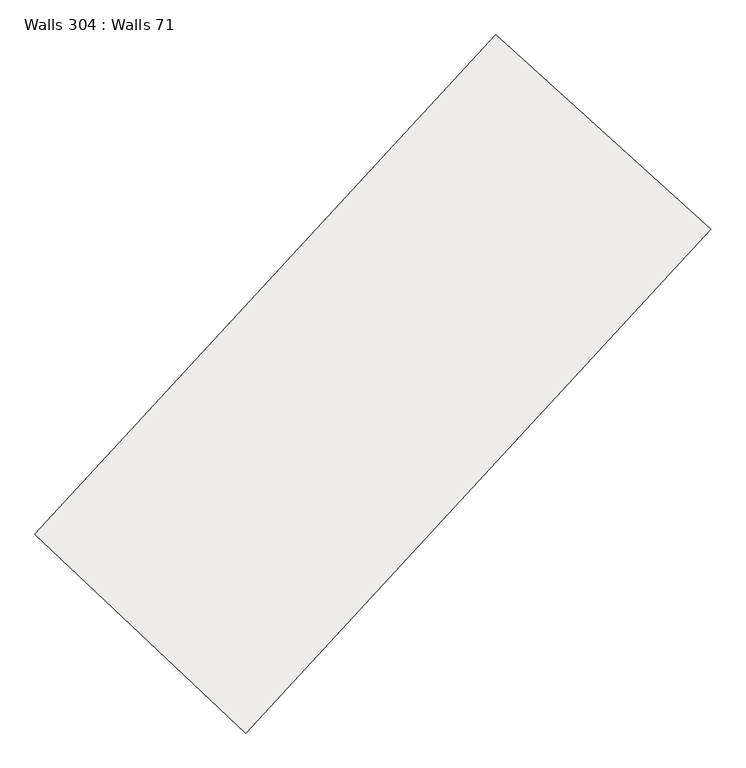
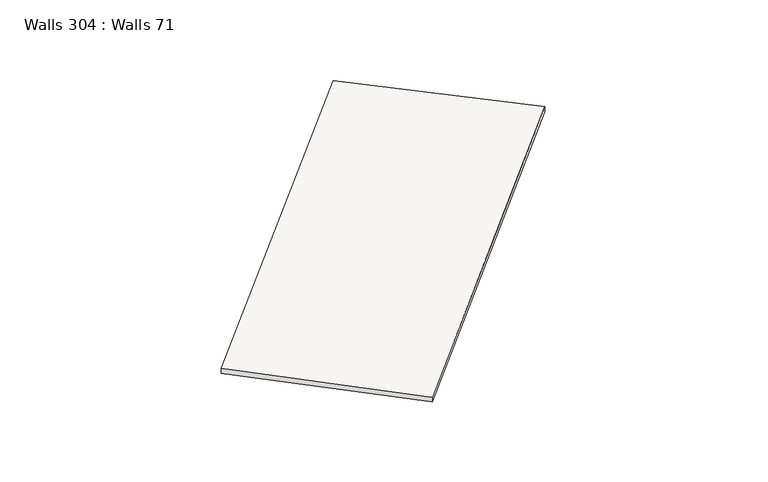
"""IFC4 building model written with IfcOpenShell, lengths in millimetres: slab geometry, Walls 304 : Walls 71."""

from ifc_helpers import new_model, si_unit, frame, origin, place, context, project, spatial, source, transform, mapped, element, save
from ifc_brep_helpers import plane_surface, spline_curve, spline_surface, advanced_brep


def walls_304_walls_71_2ab78971(model_context):
    return source(origin(), model_context, "Body", "AdvancedBrep", [
        advanced_brep(
        [(45885.382253, -106817.8786355, 638700.0), (45885.382253, -106817.8786355, 638800.0), (48631.0018566, -109298.1151146, 638800.0), (48631.0018566, -109298.1151146, 638700.0), (39997.0080506, -113195.4845392, 638620.0), (42688.0373647, -115734.8469062, 638620.0), (42688.0373647, -115734.8469062, 638720.0), (39997.0080506, -113195.4845392, 638720.0)],
        [
            (0, 1),
            (1, 2),
            (2, 3),
            (3, 0),
            (4, 5),
            (5, 6),
            (6, 7),
            (7, 4),
            (4, 0, spline_curve(3, [(39997.0080506, -113195.4845392, 638620.0), (41982.840895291, -111091.045067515, 638646.666667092), (43945.787051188, -108965.00882, 638673.333332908), (45885.382253, -106817.8786355, 638700.0)], [4, 4], [0.0, 28.612158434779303])),
            (3, 5, spline_curve(3, [(48631.0018566, -109298.1151146, 638700.0), (46673.424940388, -111465.151041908, 638673.333332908), (44692.280586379, -113610.897472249, 638646.666667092), (42688.0373647, -115734.8469062, 638620.0)], [4, 4], [0.0, 28.612158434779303])),
            (6, 2, spline_curve(3, [(42688.0373647, -115734.8469062, 638720.0), (44692.280586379, -113610.897472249, 638746.666667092), (46673.424940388, -111465.151041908, 638773.333332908), (48631.0018566, -109298.1151146, 638800.0)], [4, 4], [0.0, 28.612158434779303])),
            (1, 7, spline_curve(3, [(45885.382253, -106817.8786355, 638800.0), (43945.787051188, -108965.00882, 638773.333332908), (41982.840895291, -111091.045067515, 638746.666667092), (39997.0080506, -113195.4845392, 638720.0)], [4, 4], [0.0, 28.612158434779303])),
        ],
        [
            plane_surface(frame((47258.1920548, -108057.996875, 638750.0), z_axis=(0.6703341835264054, 0.7420593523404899, 0.0), x_axis=(0.0, 0.0, 1.0))),
            plane_surface(frame((41342.5227076, -114465.1657227, 638670.0), z_axis=(-0.6863141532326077, -0.7273052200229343, 0.0), x_axis=(0.0, 0.0, 1.0))),
            spline_surface(3, 3, [[(42688.0373647, -115734.8469062, 638620.0), (44692.280586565, -113610.897471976, 638646.666666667), (46673.424940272, -111465.151041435, 638673.333333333), (48631.0018566, -109298.1151146, 638700.0)], [(41791.027593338, -114888.39278388, 638620.0), (43789.13402281, -112770.946670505, 638646.666666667), (45764.21231055, -110631.770301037, 638673.333333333), (47715.795322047, -108471.369621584, 638700.0)], [(40894.017821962, -114041.93866152, 638620.0), (42885.98745904, -111930.995868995, 638646.666666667), (44854.999680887, -109798.389560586, 638673.333333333), (46800.588787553, -107644.624128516, 638700.0)], [(39997.0080506, -113195.4845392, 638620.0), (41982.840895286, -111091.045067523, 638646.666666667), (43945.787051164, -108965.008820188, 638673.333333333), (45885.382253, -106817.8786355, 638700.0)]], [4, 4], [4, 4], [0.0, 12.139107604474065], [0.0, 28.612158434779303]),
            spline_surface(3, 3, [[(39997.0080506, -113195.4845392, 638720.0), (41982.840895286, -111091.045067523, 638746.666666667), (43945.787051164, -108965.008820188, 638773.333333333), (45885.382253, -106817.8786355, 638800.0)], [(40894.017821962, -114041.93866152, 638720.0), (42885.98745904, -111930.995868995, 638746.666666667), (44854.999680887, -109798.389560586, 638773.333333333), (46800.588787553, -107644.624128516, 638800.0)], [(41791.027593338, -114888.39278388, 638720.0), (43789.13402281, -112770.946670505, 638746.666666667), (45764.212310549, -110631.770301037, 638773.333333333), (47715.795322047, -108471.369621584, 638800.0)], [(42688.0373647, -115734.8469062, 638720.0), (44692.280586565, -113610.897471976, 638746.666666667), (46673.424940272, -111465.151041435, 638773.333333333), (48631.0018566, -109298.1151146, 638800.0)]], [4, 4], [4, 4], [0.0, 12.139107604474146], [0.0, 28.612158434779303]),
            spline_surface(3, 3, [[(39997.0080506, -113195.4845392, 638620.0), (41982.840895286, -111091.045067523, 638646.666666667), (43945.787051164, -108965.008820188, 638673.333333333), (45885.382253, -106817.8786355, 638700.0)], [(39997.0080506, -113195.4845392, 638653.333333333), (41982.840895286, -111091.045067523, 638680.0), (43945.787051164, -108965.008820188, 638706.666666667), (45885.382253, -106817.8786355, 638733.333333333)], [(39997.0080506, -113195.4845392, 638686.666666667), (41982.840895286, -111091.045067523, 638713.333333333), (43945.787051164, -108965.008820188, 638740.0), (45885.382253, -106817.8786355, 638766.666666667)], [(39997.0080506, -113195.4845392, 638720.0), (41982.840895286, -111091.045067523, 638746.666666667), (43945.787051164, -108965.008820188, 638773.333333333), (45885.382253, -106817.8786355, 638800.0)]], [4, 4], [4, 4], [0.0, 0.3280839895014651], [0.0, 28.48015187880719]),
            spline_surface(3, 3, [[(42688.0373647, -115734.8469062, 638720.0), (44692.280586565, -113610.897471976, 638746.666666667), (46673.424940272, -111465.151041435, 638773.333333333), (48631.0018566, -109298.1151146, 638800.0)], [(42688.0373647, -115734.8469062, 638686.666666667), (44692.280586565, -113610.897471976, 638713.333333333), (46673.424940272, -111465.151041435, 638740.0), (48631.0018566, -109298.1151146, 638766.666666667)], [(42688.0373647, -115734.8469062, 638653.333333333), (44692.280586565, -113610.897471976, 638680.0), (46673.424940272, -111465.151041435, 638706.666666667), (48631.0018566, -109298.1151146, 638733.333333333)], [(42688.0373647, -115734.8469062, 638620.0), (44692.280586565, -113610.897471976, 638646.666666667), (46673.424940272, -111465.151041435, 638673.333333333), (48631.0018566, -109298.1151146, 638700.0)]], [4, 4], [4, 4], [0.0, 0.3280839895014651], [0.0, 28.74416504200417]),
        ],
        [
            (0, [[1, 2, 3, 4]]),
            (1, [[5, 6, 7, 8]]),
            (2, [[-5, 9, -4, 10]]),
            (3, [[-7, 11, -2, 12]]),
            (4, [[-8, -12, -1, -9]]),
            (5, [[-6, -10, -3, -11]]),
        ],
    ),
    ])


if __name__ == "__main__":
    model = new_model("IFC4")
    model_context = context("Model", 3, world=origin())
    ifc_project = project(units=[si_unit("LENGTHUNIT", "METRE", prefix="MILLI")], contexts=[model_context])
    site = spatial("IfcSite", under=ifc_project)
    building = spatial("IfcBuilding", under=site)
    placement = place(None, origin())
    walls_304_walls_71_shape = walls_304_walls_71_2ab78971(model_context)
    element("IfcSlab", 1, ObjectType="Walls 304 : Walls 71", at=placement, inside=building, context=model_context, shape_type="MappedRepresentation", body=[
        mapped(walls_304_walls_71_shape, transform((0.0, 0.0, 0.0), x_axis=(1.0, 0.0, 0.0), y_axis=(0.0, 1.0, 0.0), z_axis=(0.0, 0.0, 1.0))),
    ])
    save(model, "model.ifc")
